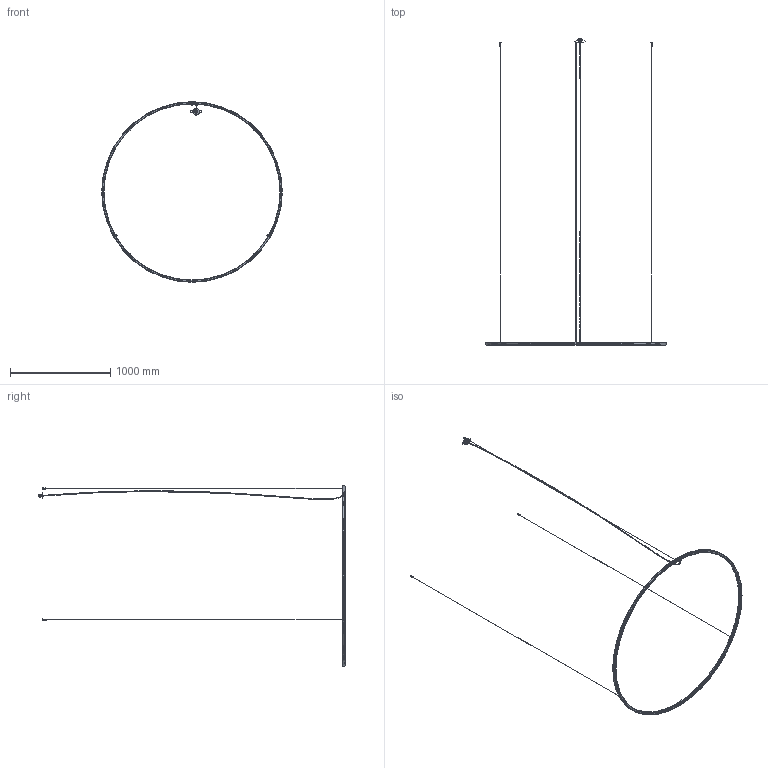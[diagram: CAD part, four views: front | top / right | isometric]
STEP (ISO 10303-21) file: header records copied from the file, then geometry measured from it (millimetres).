
FILE_DESCRIPTION (( 'STEP AP203' ), '1' );
FILE_NAME ('SPULA180XXXXXIN.STEP', '2025-11-17T15:05:01', ( '' ), ( '' ), 'SwSTEP 2.0', 'SolidWorks 2024', '' );
FILE_SCHEMA (( 'CONFIG_CONTROL_DESIGN' ));
Length unit declared in the file: millimetre
Products named in the file (13): TANG YAO-7727-P415 + RIV TESSILE 33-PER ANELLI; WSCM1I0006-0242-00; ASSIEME ANELLO 180 MODULI LED; WSCM1I0008-0242-00; WSCP2F0011-0403-00; MROULIANELINBC; WSCM2D0032-0700-00; WSCM1I0007-0242-00; ASSIEME GRIPPER M10X1 CROMO; WSCA01193000B3028A; SPULA180XXXXXIN; WSCM2A0022-0700-00; WSCM2A0026-0248-00
Assembly tree (23 placements, depth 3):
  SPULA180XXXXXIN
    ASSIEME ANELLO 180 MODULI LED
      WSCM2D0032-0700-00
      WSCP2F0011-0403-00  x6
      WSCM2A0022-0700-00
    WSCM2A0026-0248-00  x3
    WSCA01193000B3028A  x3
    TANG YAO-7727-P415 + RIV TESSILE 33-PER ANELLI
    ASSIEME GRIPPER M10X1 CROMO  x3
      WSCM1I0006-0242-00
      WSCM1I0007-0242-00
      WSCM1I0008-0242-00
    MROULIANELINBC
Bounding box: 1800 x 3050.73 x 1800 mm (x, y, z)
Volume: 1674917.2 mm3; surface area: 1213736.4 mm2
Topology: 24 solids, 33 shells, 1258 faces, 3275 edges, 2109 vertices
Faces by surface type: plane 508, cylinder 441, cone 140, torus 100, bspline 61, sphere 8
Entity records: 43230 total; most frequent: CARTESIAN_POINT 25145, ORIENTED_EDGE 3421, DIRECTION 3388, EDGE_CURVE 1811, AXIS2_PLACEMENT_3D 1296, VERTEX_POINT 1174, VECTOR 796, LINE 796
